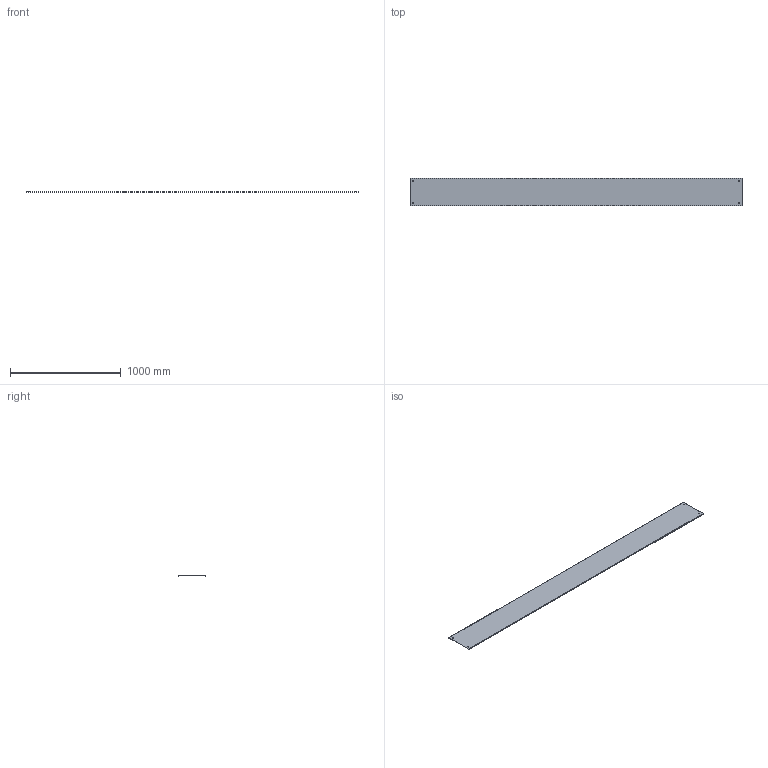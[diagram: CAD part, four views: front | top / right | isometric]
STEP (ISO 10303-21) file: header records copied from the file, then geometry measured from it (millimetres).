
FILE_DESCRIPTION(/* description */ ('','CAx-IF Rec.Pracs.---Representation and Presentation of Product Manufacturing Information (PMI)---4.0---2014-10-13'),/* implementation_level */ '2;1');
FILE_NAME(/* name */ 'Eurostrut_ECLSC-200_Straight Cover for Cable Ladder ECL.step',/* time_stamp */ '2026-09-08T14:26:19+02:00',/* author */ (''),/* organization */ (''),/* preprocessor_version */ 'ST-DEVELOPER v20.1',/* originating_system */ 'Autodesk Revit 2027 27.2.0.39',/* authorisation */ '');
FILE_SCHEMA (('AP242_MANAGED_MODEL_BASED_3D_ENGINEERING_MIM_LF { 1 0 10303 442 2 1 4 }'));
Length unit declared in the file: millimetre
Products named in the file (2): TopLevelAssembly; Extrusion
Assembly tree (1 placements, depth 2):
  TopLevelAssembly
    Extrusion
Bounding box: 3000 x 250 x 9 mm (x, y, z)
Volume: 1192028.8 mm3; surface area: 1599355.2 mm2
Topology: 1 solids, 1 shells, 18 faces, 48 edges, 32 vertices
Faces by surface type: plane 10, cylinder 8
Entity records: 618 total; most frequent: DIRECTION 106, CARTESIAN_POINT 101, ORIENTED_EDGE 96, EDGE_CURVE 48, AXIS2_PLACEMENT_3D 37, LINE 32, VECTOR 32, VERTEX_POINT 32
